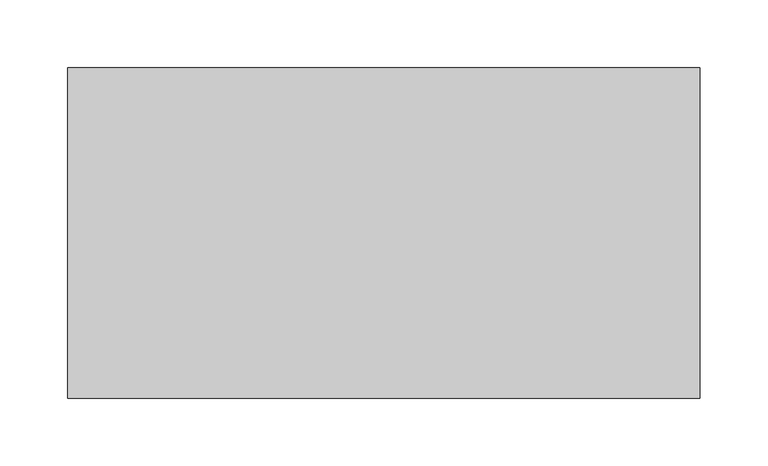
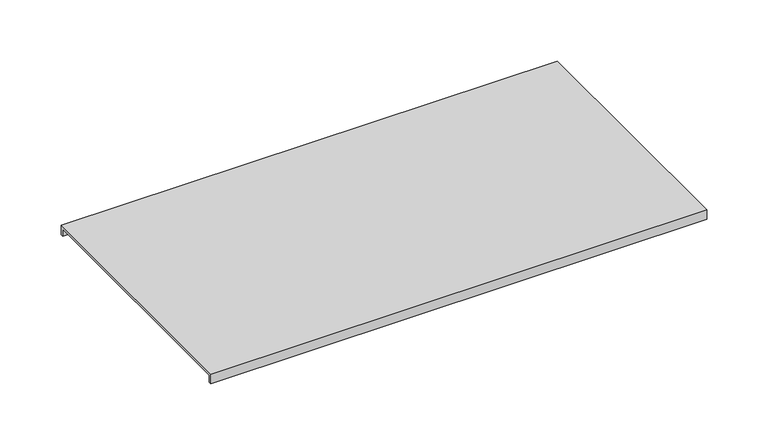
"""IFC4 building model written with IfcOpenShell, lengths in millimetres: cable carrier fitting geometry, ССT_Hyperline_FBTR-CVR-2000 Крышка для оптического лотка : Крышка для оптического лотка."""

from ifc_helpers import new_model, si_unit, frame, origin, place, context, project, spatial, polyline, outline, extrude, source, transform, mapped, element, save


def cable_carrier_fitting_0fe43b8c(model_context):
    return source(origin(), model_context, "Body", "SweptSolid", [
        extrude(outline(polyline([(120.0, 50.0), (-120.0, 50.0), (-120.0, 43.0), (-122.54, 43.0), (-122.54, 52.54), (122.54, 52.54), (122.54, 43.0), (120.0, 43.0), (120.0, 50.0)])), frame((-288.7216999, 0.0, 0.0), z_axis=(1.0, 0.0, 0.0), x_axis=(0.0, 1.0, 0.0)), (0.0, 0.0, 1.0), 468.7216999),
    ])


if __name__ == "__main__":
    model = new_model("IFC4")
    model_context = context("Model", 3, world=origin())
    ifc_project = project(units=[si_unit("LENGTHUNIT", "METRE", prefix="MILLI")], contexts=[model_context])
    site = spatial("IfcSite", under=ifc_project)
    building = spatial("IfcBuilding", under=site)
    placement = place(None, origin())
    cable_carrier_fitting_shape = cable_carrier_fitting_0fe43b8c(model_context)
    element("IfcCableCarrierFitting", 1, ObjectType="ССT_Hyperline_FBTR-CVR-2000 Крышка для оптического лотка : Крышка для оптического лотка", at=placement, inside=building, context=model_context, shape_type="MappedRepresentation", body=[
        mapped(cable_carrier_fitting_shape, transform((0.0, 0.0, 0.0), x_axis=(1.0, 0.0, 0.0), y_axis=(0.0, 1.0, 0.0), z_axis=(0.0, 0.0, 1.0))),
    ])
    save(model, "model.ifc")
